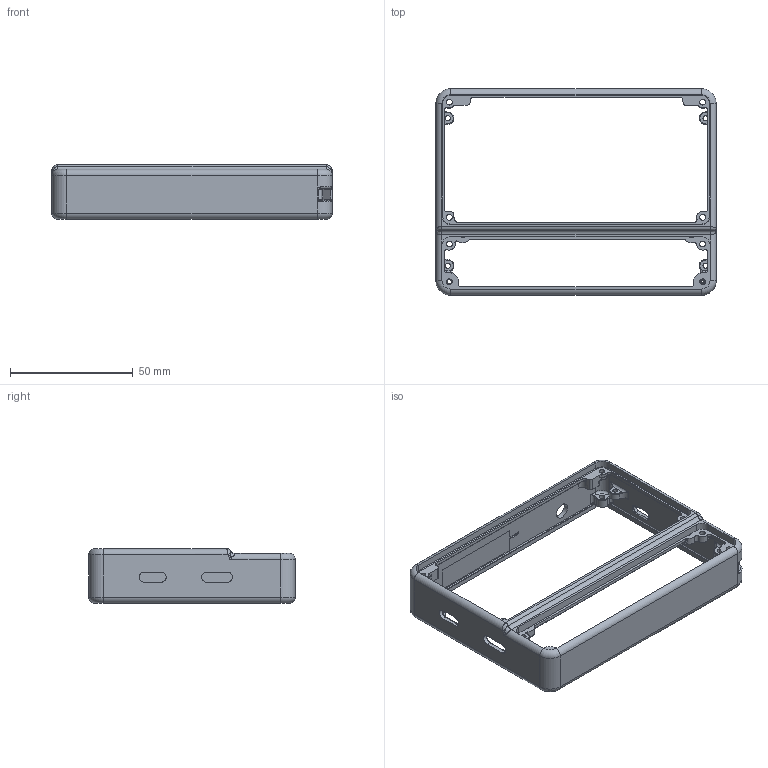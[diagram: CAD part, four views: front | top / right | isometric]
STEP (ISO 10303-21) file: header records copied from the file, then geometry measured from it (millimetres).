
FILE_DESCRIPTION(/* description */ (''),/* implementation_level */ '2;1');
FILE_NAME(/* name */ 'Exploiteers_Hacker_Pager_V107_Main_Shell_step.stp',/* time_stamp */ '2026-06-11T15:13:01-04:00',/* author */ 'SGX',/* organization */ 'Exploiteers',/* preprocessor_version */ 'ST-DEVELOPER v20.1',/* originating_system */ 'Autodesk Translation Framework v15.8.0.0',/* authorisation */ '');
FILE_SCHEMA (('AUTOMOTIVE_DESIGN { 1 0 10303 214 3 1 1 }'));
Length unit declared in the file: millimetre
Products named in the file (1): Main_Shell
Bounding box: 114 x 84 x 22.2 mm (x, y, z)
Volume: 21421.5 mm3; surface area: 22295.3 mm2
Topology: 1 solids, 1 shells, 652 faces, 1575 edges, 904 vertices
Faces by surface type: cylinder 263, torus 157, plane 138, bspline 85, cone 6, sphere 3
Full cylindrical faces by diameter (mm): 1.05 x1, 1.5 x4, 1.854 x3, 2 x8, 2.3 x12, 3.2 x2, 4.04 x2, 6.35 x1
Entity records: 21425 total; most frequent: CARTESIAN_POINT 6368, DIRECTION 3290, ORIENTED_EDGE 3084, EDGE_CURVE 1542, AXIS2_PLACEMENT_3D 1360, VERTEX_POINT 904, CIRCLE 770, EDGE_LOOP 712
